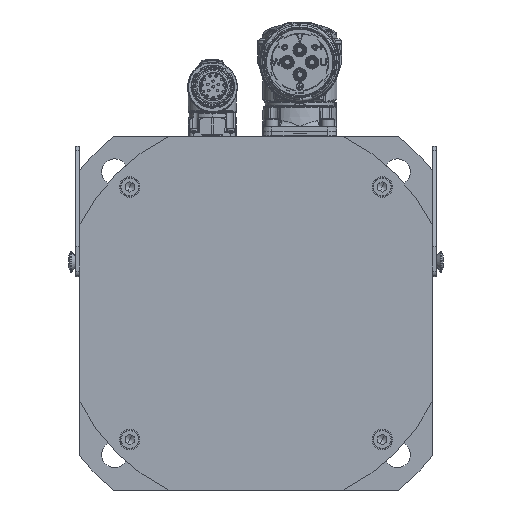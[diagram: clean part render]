
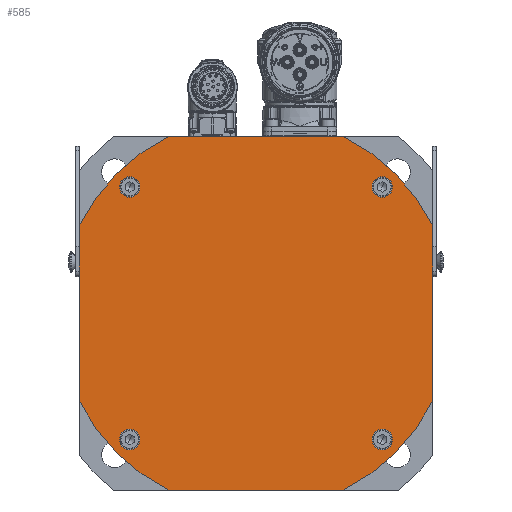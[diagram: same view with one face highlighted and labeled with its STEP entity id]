
A CAD part, left-side view. The second image highlights one B-rep face of the part: STEP entity #585.
In plain terms, the highlighted planar face has unit normal (-1, 0, 0).
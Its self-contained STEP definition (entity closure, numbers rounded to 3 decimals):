
#71=CARTESIAN_POINT('Cartesian Point',(0.,47.021,95.)) ;
#87=CARTESIAN_POINT('Cartesian Point',(0.,95.,47.021)) ;
#90=CARTESIAN_POINT('Axis2P3D Location',(0.,0.,0.)) ;
#114=CARTESIAN_POINT('Line Origine',(0.,0.,95.)) ;
#118=CARTESIAN_POINT('Cartesian Point',(0.,-47.021,95.)) ;
#450=CARTESIAN_POINT('Cartesian Point',(0.,95.,-47.021)) ;
#453=CARTESIAN_POINT('Line Origine',(0.,95.,0.)) ;
#465=CARTESIAN_POINT('Axis2P3D Location',(0.,0.,0.)) ;
#470=CARTESIAN_POINT('Line Origine',(0.,-95.,0.)) ;
#474=CARTESIAN_POINT('Cartesian Point',(0.,-95.,47.021)) ;
#476=CARTESIAN_POINT('Cartesian Point',(0.,-95.,-47.021)) ;
#479=CARTESIAN_POINT('Axis2P3D Location',(0.,0.,0.)) ;
#484=CARTESIAN_POINT('Axis2P3D Location',(0.,0.,0.)) ;
#488=CARTESIAN_POINT('Cartesian Point',(0.,47.021,-95.)) ;
#491=CARTESIAN_POINT('Line Origine',(0.,0.,-95.)) ;
#495=CARTESIAN_POINT('Cartesian Point',(0.,-47.021,-95.)) ;
#498=CARTESIAN_POINT('Axis2P3D Location',(0.,0.,0.)) ;
#513=CARTESIAN_POINT('Axis2P3D Location',(0.,-67.882,67.882)) ;
#517=CARTESIAN_POINT('Cartesian Point',(0.,-73.382,67.882)) ;
#519=CARTESIAN_POINT('Cartesian Point',(0.,-62.382,67.882)) ;
#522=CARTESIAN_POINT('Axis2P3D Location',(0.,-67.882,67.882)) ;
#531=CARTESIAN_POINT('Axis2P3D Location',(0.,67.882,67.882)) ;
#535=CARTESIAN_POINT('Cartesian Point',(0.,73.382,67.882)) ;
#537=CARTESIAN_POINT('Cartesian Point',(0.,62.382,67.882)) ;
#540=CARTESIAN_POINT('Axis2P3D Location',(0.,67.882,67.882)) ;
#549=CARTESIAN_POINT('Axis2P3D Location',(0.,-67.882,-67.882)) ;
#553=CARTESIAN_POINT('Cartesian Point',(0.,-73.382,-67.882)) ;
#555=CARTESIAN_POINT('Cartesian Point',(0.,-62.382,-67.882)) ;
#558=CARTESIAN_POINT('Axis2P3D Location',(0.,-67.882,-67.882)) ;
#567=CARTESIAN_POINT('Axis2P3D Location',(0.,67.882,-67.882)) ;
#571=CARTESIAN_POINT('Cartesian Point',(0.,73.382,-67.882)) ;
#573=CARTESIAN_POINT('Cartesian Point',(0.,62.382,-67.882)) ;
#576=CARTESIAN_POINT('Axis2P3D Location',(0.,67.882,-67.882)) ;
#91=DIRECTION('Axis2P3D Direction',(1.,0.,0.)) ;
#115=DIRECTION('Vector Direction',(0.,1.,0.)) ;
#454=DIRECTION('Vector Direction',(0.,0.,1.)) ;
#466=DIRECTION('Axis2P3D Direction',(1.,0.,0.)) ;
#467=DIRECTION('Axis2P3D XDirection',(0.,1.,0.)) ;
#471=DIRECTION('Vector Direction',(0.,0.,-1.)) ;
#480=DIRECTION('Axis2P3D Direction',(1.,0.,0.)) ;
#485=DIRECTION('Axis2P3D Direction',(1.,0.,0.)) ;
#492=DIRECTION('Vector Direction',(0.,-1.,0.)) ;
#499=DIRECTION('Axis2P3D Direction',(1.,0.,0.)) ;
#514=DIRECTION('Axis2P3D Direction',(1.,0.,0.)) ;
#523=DIRECTION('Axis2P3D Direction',(1.,0.,0.)) ;
#532=DIRECTION('Axis2P3D Direction',(1.,0.,0.)) ;
#541=DIRECTION('Axis2P3D Direction',(1.,0.,0.)) ;
#550=DIRECTION('Axis2P3D Direction',(1.,0.,0.)) ;
#559=DIRECTION('Axis2P3D Direction',(1.,0.,0.)) ;
#568=DIRECTION('Axis2P3D Direction',(1.,0.,0.)) ;
#577=DIRECTION('Axis2P3D Direction',(1.,0.,0.)) ;
#92=AXIS2_PLACEMENT_3D('Circle Axis2P3D',#90,#91,$) ;
#468=AXIS2_PLACEMENT_3D('Plane Axis2P3D',#465,#466,#467) ;
#481=AXIS2_PLACEMENT_3D('Circle Axis2P3D',#479,#480,$) ;
#486=AXIS2_PLACEMENT_3D('Circle Axis2P3D',#484,#485,$) ;
#500=AXIS2_PLACEMENT_3D('Circle Axis2P3D',#498,#499,$) ;
#515=AXIS2_PLACEMENT_3D('Circle Axis2P3D',#513,#514,$) ;
#524=AXIS2_PLACEMENT_3D('Circle Axis2P3D',#522,#523,$) ;
#533=AXIS2_PLACEMENT_3D('Circle Axis2P3D',#531,#532,$) ;
#542=AXIS2_PLACEMENT_3D('Circle Axis2P3D',#540,#541,$) ;
#551=AXIS2_PLACEMENT_3D('Circle Axis2P3D',#549,#550,$) ;
#560=AXIS2_PLACEMENT_3D('Circle Axis2P3D',#558,#559,$) ;
#569=AXIS2_PLACEMENT_3D('Circle Axis2P3D',#567,#568,$) ;
#578=AXIS2_PLACEMENT_3D('Circle Axis2P3D',#576,#577,$) ;
#504=ORIENTED_EDGE('Oriented Edge',*,*,#478,.F.) ;
#505=ORIENTED_EDGE('Oriented Edge',*,*,#483,.F.) ;
#506=ORIENTED_EDGE('Oriented Edge',*,*,#120,.F.) ;
#507=ORIENTED_EDGE('Oriented Edge',*,*,#94,.F.) ;
#508=ORIENTED_EDGE('Oriented Edge',*,*,#457,.F.) ;
#509=ORIENTED_EDGE('Oriented Edge',*,*,#490,.F.) ;
#510=ORIENTED_EDGE('Oriented Edge',*,*,#497,.F.) ;
#511=ORIENTED_EDGE('Oriented Edge',*,*,#502,.F.) ;
#528=ORIENTED_EDGE('Oriented Edge',*,*,#521,.F.) ;
#529=ORIENTED_EDGE('Oriented Edge',*,*,#526,.F.) ;
#546=ORIENTED_EDGE('Oriented Edge',*,*,#539,.F.) ;
#547=ORIENTED_EDGE('Oriented Edge',*,*,#544,.F.) ;
#564=ORIENTED_EDGE('Oriented Edge',*,*,#557,.F.) ;
#565=ORIENTED_EDGE('Oriented Edge',*,*,#562,.F.) ;
#582=ORIENTED_EDGE('Oriented Edge',*,*,#575,.F.) ;
#583=ORIENTED_EDGE('Oriented Edge',*,*,#580,.F.) ;
#530=FACE_BOUND('Face Bound',#527,.T.) ;
#548=FACE_BOUND('Face Bound',#545,.T.) ;
#566=FACE_BOUND('Face Bound',#563,.T.) ;
#584=FACE_BOUND('Face Bound',#581,.T.) ;
#116=VECTOR('Line Direction',#115,1.) ;
#455=VECTOR('Line Direction',#454,1.) ;
#472=VECTOR('Line Direction',#471,1.) ;
#493=VECTOR('Line Direction',#492,1.) ;
#585=ADVANCED_FACE('',(#512,#530,#548,#566,#584),#469,.F.) ;
#93=CIRCLE('generated circle',#92,106.) ;
#482=CIRCLE('generated circle',#481,106.) ;
#487=CIRCLE('generated circle',#486,106.) ;
#501=CIRCLE('generated circle',#500,106.) ;
#516=CIRCLE('generated circle',#515,5.5) ;
#525=CIRCLE('generated circle',#524,5.5) ;
#534=CIRCLE('generated circle',#533,5.5) ;
#543=CIRCLE('generated circle',#542,5.5) ;
#552=CIRCLE('generated circle',#551,5.5) ;
#561=CIRCLE('generated circle',#560,5.5) ;
#570=CIRCLE('generated circle',#569,5.5) ;
#579=CIRCLE('generated circle',#578,5.5) ;
#94=EDGE_CURVE('',#88,#72,#93,.T.) ;
#120=EDGE_CURVE('',#72,#119,#117,.F.) ;
#457=EDGE_CURVE('',#451,#88,#456,.T.) ;
#478=EDGE_CURVE('',#475,#477,#473,.T.) ;
#483=EDGE_CURVE('',#119,#475,#482,.T.) ;
#490=EDGE_CURVE('',#489,#451,#487,.T.) ;
#497=EDGE_CURVE('',#496,#489,#494,.F.) ;
#502=EDGE_CURVE('',#477,#496,#501,.T.) ;
#521=EDGE_CURVE('',#518,#520,#516,.F.) ;
#526=EDGE_CURVE('',#520,#518,#525,.F.) ;
#539=EDGE_CURVE('',#536,#538,#534,.F.) ;
#544=EDGE_CURVE('',#538,#536,#543,.F.) ;
#557=EDGE_CURVE('',#554,#556,#552,.F.) ;
#562=EDGE_CURVE('',#556,#554,#561,.F.) ;
#575=EDGE_CURVE('',#572,#574,#570,.F.) ;
#580=EDGE_CURVE('',#574,#572,#579,.F.) ;
#503=EDGE_LOOP('Oriented Loop',(#504,#505,#506,#507,#508,#509,#510,#511)) ;
#527=EDGE_LOOP('Oriented Loop',(#528,#529)) ;
#545=EDGE_LOOP('Oriented Loop',(#546,#547)) ;
#563=EDGE_LOOP('Oriented Loop',(#564,#565)) ;
#581=EDGE_LOOP('Oriented Loop',(#582,#583)) ;
#512=FACE_OUTER_BOUND('Face Bound',#503,.T.) ;
#117=LINE('Line',#114,#116) ;
#456=LINE('Line',#453,#455) ;
#473=LINE('Line',#470,#472) ;
#494=LINE('Line',#491,#493) ;
#469=PLANE('Plane',#468) ;
#72=VERTEX_POINT('Vertex Point',#71) ;
#88=VERTEX_POINT('Vertex Point',#87) ;
#119=VERTEX_POINT('Vertex Point',#118) ;
#451=VERTEX_POINT('Vertex Point',#450) ;
#475=VERTEX_POINT('Vertex Point',#474) ;
#477=VERTEX_POINT('Vertex Point',#476) ;
#489=VERTEX_POINT('Vertex Point',#488) ;
#496=VERTEX_POINT('Vertex Point',#495) ;
#518=VERTEX_POINT('Vertex Point',#517) ;
#520=VERTEX_POINT('Vertex Point',#519) ;
#536=VERTEX_POINT('Vertex Point',#535) ;
#538=VERTEX_POINT('Vertex Point',#537) ;
#554=VERTEX_POINT('Vertex Point',#553) ;
#556=VERTEX_POINT('Vertex Point',#555) ;
#572=VERTEX_POINT('Vertex Point',#571) ;
#574=VERTEX_POINT('Vertex Point',#573) ;
